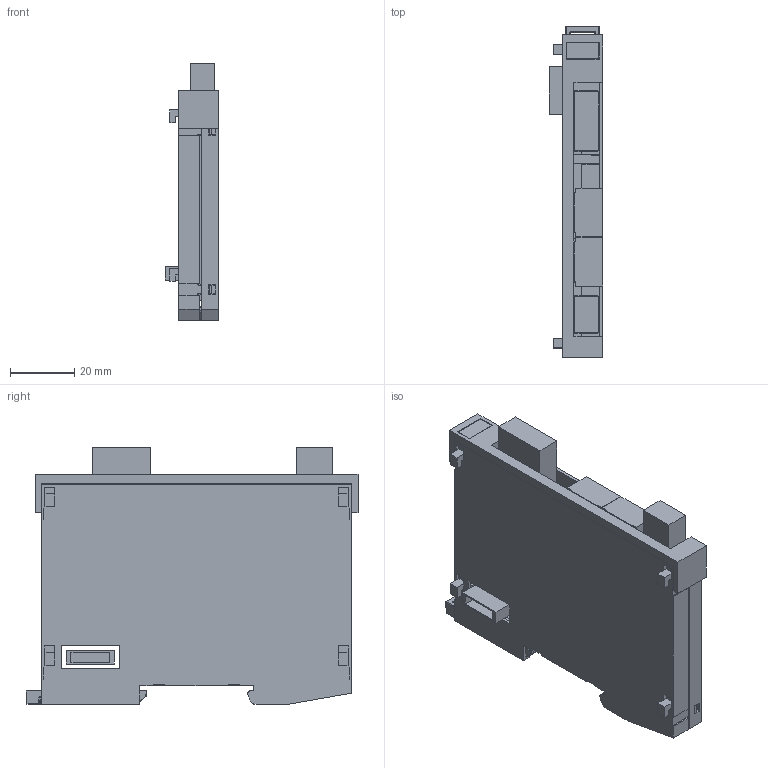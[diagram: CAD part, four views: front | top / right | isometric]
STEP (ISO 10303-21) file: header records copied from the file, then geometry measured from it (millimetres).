
FILE_DESCRIPTION (( 'STEP AP214' ), '1' );
FILE_NAME ('ICA011.STEP', '2015-11-11T14:19:09', ( 'SIGMATEK GmbH & Co KG' ), ( 'SIGMATEK GmbH & Co KG' ), 'SwSTEP 2.0', 'SolidWorks 2015', '' );
FILE_SCHEMA (( 'AUTOMOTIVE_DESIGN' ));
Length unit declared in the file: millimetre
Products named in the file (14): Schieber_f Suport; S-Dias Schale rechts_f Suport; S-Dias Schale links_f Suport; 4110251342_MF 10-5 MC CABUR_1854510000; ICA011; LP_ICA011; Steckerabdeckung_Var 9; Dummy_4080225346 Erni Stift; Dummy____________fmc_1.5 5pol 1952296; Dummy____________fmc_1.5 3pol 1952296; Dummy_4110262152 5pol Buchse; Dummy_4110262113 3pol Buchse; Dummy_4080225345 Erni Buchse; S-Dias Rasthaken 20130313
Assembly tree (14 placements, depth 3):
  ICA011
    4110251342_MF 10-5 MC CABUR_1854510000
    S-Dias Schale links_f Suport
    S-Dias Schale rechts_f Suport
    Schieber_f Suport
    S-Dias Rasthaken 20130313
    LP_ICA011
      Dummy_4080225345 Erni Buchse
      Dummy_4110262113 3pol Buchse
      Dummy_4110262152 5pol Buchse
      Dummy____________fmc_1.5 3pol 1952296
      Dummy____________fmc_1.5 5pol 1952296
      Dummy_4080225346 Erni Stift
      Steckerabdeckung_Var 9  x2
Bounding box: 16.8 x 103.61 x 80.15 mm (x, y, z)
Volume: 27029 mm3; surface area: 43456.4 mm2
Topology: 13 solids, 13 shells, 895 faces, 2594 edges, 1717 vertices
Faces by surface type: plane 642, cylinder 142, bspline 55, cone 28, torus 15, sphere 13
Entity records: 32337 total; most frequent: CARTESIAN_POINT 7581, ORIENTED_EDGE 4804, DIRECTION 3781, EDGE_CURVE 2402, VECTOR 1735, LINE 1735, VERTEX_POINT 1596, AXIS2_PLACEMENT_3D 1023
